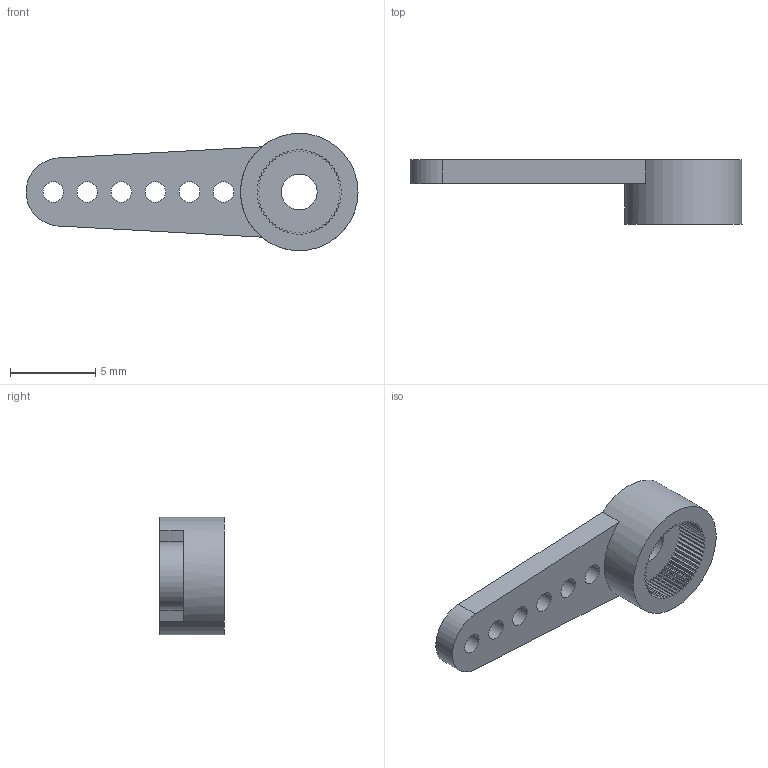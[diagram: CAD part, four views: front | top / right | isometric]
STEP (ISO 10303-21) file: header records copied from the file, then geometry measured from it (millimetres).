
FILE_DESCRIPTION(/* description */ ('STEP AP242 Edition 2','CAx-IF Rec.Pracs.---Representation and Presentation of Product Manufacturing Information (PMI)---4.0---2014-10-13','CAx-IF Rec.Pracs.---3D Tessellated Geometry---0.4---2014-09-14','2;1','CAx-IF Rec.Pracs.---User Defined Attributes---1.5---2016-08-15'),/* implementation_level */ '2;1');
FILE_NAME(/* name */ '6469a547-82a5-472f-9b2a-75e827908a2e',/* time_stamp */ '2026-11-04T05:15:29Z',/* author */ (''),/* organization */ (''),/* preprocessor_version */ 'ST-DEVELOPER v20',/* originating_system */ 'ONSHAPE BY PTC INC, 1.223',/* authorisation */ ' ');
FILE_SCHEMA (('AP242_MANAGED_MODEL_BASED_3D_ENGINEERING_MIM_LF { 1 0 10303 442 3 1 4 }'));
Length unit declared in the file: metre
Products named in the file (1): SG90 - Micro Servo 9g - Tower Pro.2_Pe‡a
Bounding box: 19.5 x 3.8 x 6.9 mm (x, y, z)
Volume: 155.4 mm3; surface area: 376.1 mm2
Topology: 1 solids, 1 shells, 197 faces, 580 edges, 387 vertices
Faces by surface type: plane 127, cylinder 70
Full cylindrical faces by diameter (mm): 1.2 x6, 2.1 x1, 4.6 x1, 6.9 x1
Entity records: 6550 total; most frequent: CARTESIAN_POINT 1152, ORIENTED_EDGE 1138, DIRECTION 1106, EDGE_CURVE 569, LINE 428, VECTOR 428, VERTEX_POINT 385, AXIS2_PLACEMENT_3D 339
